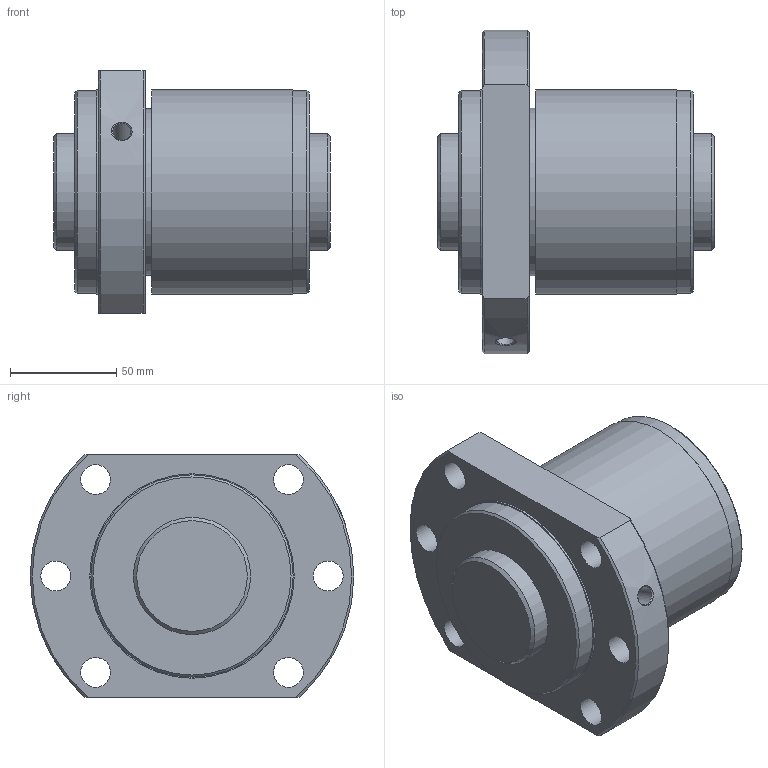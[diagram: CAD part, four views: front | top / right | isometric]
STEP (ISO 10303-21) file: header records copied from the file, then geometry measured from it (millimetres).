
FILE_DESCRIPTION(/* description */ ('STEP AP203'),/* implementation_level */ '2;1');
FILE_NAME(/* name */ 'SBK5520-7.6RRG0+130LC0(0000)',/* time_stamp */ '2024-05-28T11:20:42+02:00',/* author */ ('License CC BY-ND 4.0'),/* organization */ ('CADENAS'),/* preprocessor_version */ 'ST-DEVELOPER v19.3',/* originating_system */ 'PARTsolutions',/* authorisation */ ' ');
FILE_SCHEMA (('CONFIG_CONTROL_DESIGN'));
Length unit declared in the file: millimetre
Products named in the file (3): SBK5520-7.6RRG0+130LC0(0000); NRR000SBK5520-7.60Shaft; NRR000SBK5520-7.6Nut
Assembly tree (2 placements, depth 2):
  SBK5520-7.6RRG0+130LC0(0000)
    NRR000SBK5520-7.60Shaft
    NRR000SBK5520-7.6Nut
Bounding box: 130 x 152 x 114 mm (x, y, z)
Volume: 993005 mm3; surface area: 117621.8 mm2
Topology: 2 solids, 2 shells, 37 faces, 80 edges, 52 vertices
Faces by surface type: cylinder 16, plane 11, cone 10
Full cylindrical faces by diameter (mm): 8.566 x1, 14 x6, 55 x2, 78.528 x1, 95 x2, 96 x2
Entity records: 1020 total; most frequent: CARTESIAN_POINT 183, DIRECTION 168, ORIENTED_EDGE 114, AXIS2_PLACEMENT_3D 80, FACE_BOUND 77, EDGE_LOOP 76, EDGE_CURVE 57, VERTEX_POINT 50
